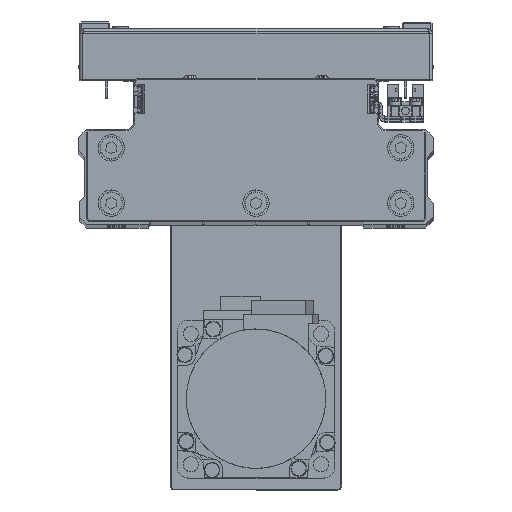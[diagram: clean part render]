
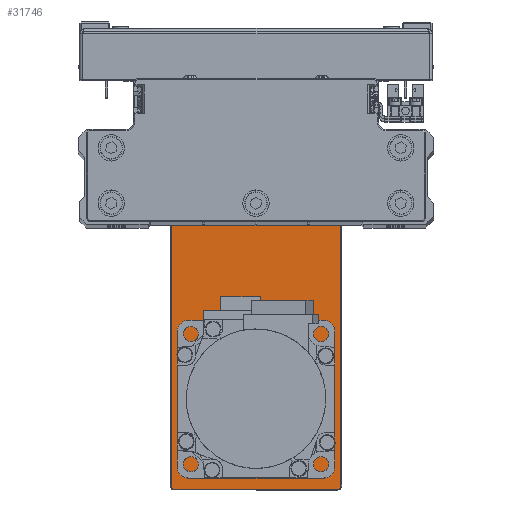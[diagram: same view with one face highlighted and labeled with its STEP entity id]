
A CAD part, top view. The second image highlights one B-rep face of the part: STEP entity #31746.
In plain terms, the highlighted planar face has unit normal (0, 0, 1) as drawn and (0, 1, 0) by its records, which use the part's own axes.
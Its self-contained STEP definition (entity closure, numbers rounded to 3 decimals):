
#621 = DIRECTION ( 'NONE',  ( 0., 0., -1. ) ) ;
#1058 = FACE_BOUND ( 'NONE', #24945, .T. ) ;
#1567 = DIRECTION ( 'NONE',  ( 0., 0., 1. ) ) ;
#1904 = DIRECTION ( 'NONE',  ( -1., 0., 0. ) ) ;
#1917 = DIRECTION ( 'NONE',  ( 0., 0., 1. ) ) ;
#2198 = EDGE_CURVE ( 'NONE', #16260, #32580, #7138, .T. ) ;
#2506 = DIRECTION ( 'NONE',  ( 0., 0., -1. ) ) ;
#2997 = VECTOR ( 'NONE', #1917, 1000. ) ;
#3269 = DIRECTION ( 'NONE',  ( 0., 1., 0. ) ) ;
#3300 = ORIENTED_EDGE ( 'NONE', *, *, #41774, .F. ) ;
#3473 = ORIENTED_EDGE ( 'NONE', *, *, #26073, .F. ) ;
#3651 = VERTEX_POINT ( 'NONE', #12794 ) ;
#3700 = LINE ( 'NONE', #17325, #35315 ) ;
#3705 = DIRECTION ( 'NONE',  ( 0., 0., -1. ) ) ;
#3742 = CIRCLE ( 'NONE', #28731, 1.2 ) ;
#3894 = VERTEX_POINT ( 'NONE', #28452 ) ;
#4904 = EDGE_CURVE ( 'NONE', #28765, #3894, #18880, .T. ) ;
#5372 = ORIENTED_EDGE ( 'NONE', *, *, #19065, .T. ) ;
#5559 = DIRECTION ( 'NONE',  ( 0., 0., 1. ) ) ;
#5629 = DIRECTION ( 'NONE',  ( 0., 0., -1. ) ) ;
#6058 = EDGE_CURVE ( 'NONE', #13177, #14620, #3742, .T. ) ;
#6297 = CARTESIAN_POINT ( 'NONE',  ( -50.5, 6., 0. ) ) ;
#6330 = CARTESIAN_POINT ( 'NONE',  ( -84.7, 6., 31. ) ) ;
#6502 = VECTOR ( 'NONE', #1904, 1000. ) ;
#6750 = DIRECTION ( 'NONE',  ( 0., 1., 0. ) ) ;
#7138 = CIRCLE ( 'NONE', #32129, 10.3 ) ;
#7143 = DIRECTION ( 'NONE',  ( 0., 0., -1. ) ) ;
#7390 = ORIENTED_EDGE ( 'NONE', *, *, #39424, .T. ) ;
#7571 = EDGE_LOOP ( 'NONE', ( #3473, #38682 ) ) ;
#7667 = EDGE_CURVE ( 'NONE', #8191, #26499, #42921, .T. ) ;
#7951 = DIRECTION ( 'NONE',  ( 0., 1., 0. ) ) ;
#7964 = DIRECTION ( 'NONE',  ( 0., 0., -1. ) ) ;
#8191 = VERTEX_POINT ( 'NONE', #24268 ) ;
#8596 = VERTEX_POINT ( 'NONE', #17065 ) ;
#8604 = LINE ( 'NONE', #32538, #2997 ) ;
#8832 = ORIENTED_EDGE ( 'NONE', *, *, #33096, .F. ) ;
#8853 = AXIS2_PLACEMENT_3D ( 'NONE', #19481, #33131, #2506 ) ;
#8948 = ORIENTED_EDGE ( 'NONE', *, *, #37110, .T. ) ;
#9487 = AXIS2_PLACEMENT_3D ( 'NONE', #20666, #34322, #3705 ) ;
#10263 = EDGE_CURVE ( 'NONE', #24751, #28188, #36641, .T. ) ;
#10364 = CIRCLE ( 'NONE', #16065, 10.3 ) ;
#11002 = DIRECTION ( 'NONE',  ( 0., 1., 0. ) ) ;
#11314 = PLANE ( 'NONE',  #34358 ) ;
#12244 = ORIENTED_EDGE ( 'NONE', *, *, #42526, .F. ) ;
#12256 = DIRECTION ( 'NONE',  ( 0., -1., 0. ) ) ;
#12441 = ORIENTED_EDGE ( 'NONE', *, *, #2198, .T. ) ;
#12794 = CARTESIAN_POINT ( 'NONE',  ( 75.992, 6., -10.076 ) ) ;
#13177 = VERTEX_POINT ( 'NONE', #39137 ) ;
#14027 = VECTOR ( 'NONE', #5629, 1000. ) ;
#14620 = VERTEX_POINT ( 'NONE', #29674 ) ;
#14671 = FACE_BOUND ( 'NONE', #28337, .T. ) ;
#14740 = CIRCLE ( 'NONE', #39772, 1.525 ) ;
#14870 = EDGE_LOOP ( 'NONE', ( #12244, #26708 ) ) ;
#15303 = VERTEX_POINT ( 'NONE', #33637 ) ;
#15852 = CIRCLE ( 'NONE', #40925, 1.525 ) ;
#16048 = CIRCLE ( 'NONE', #41110, 1.525 ) ;
#16065 = AXIS2_PLACEMENT_3D ( 'NONE', #42940, #12256, #25907 ) ;
#16260 = VERTEX_POINT ( 'NONE', #41573 ) ;
#16887 = DIRECTION ( 'NONE',  ( 0., 0., 1. ) ) ;
#17065 = CARTESIAN_POINT ( 'NONE',  ( -84.7, 6., -31. ) ) ;
#17325 = CARTESIAN_POINT ( 'NONE',  ( 0., 6., 32.2 ) ) ;
#17353 = AXIS2_PLACEMENT_3D ( 'NONE', #41680, #11002, #24626 ) ;
#17594 = CARTESIAN_POINT ( 'NONE',  ( 52.5, 6., 0. ) ) ;
#18225 = CARTESIAN_POINT ( 'NONE',  ( 84.7, 6., -31. ) ) ;
#18379 = CIRCLE ( 'NONE', #43408, 15. ) ;
#18528 = CARTESIAN_POINT ( 'NONE',  ( 75.992, 6., -8.551 ) ) ;
#18553 = CARTESIAN_POINT ( 'NONE',  ( 52.5, 6., 10.3 ) ) ;
#18880 = LINE ( 'NONE', #32524, #6502 ) ;
#19065 = EDGE_CURVE ( 'NONE', #32580, #16260, #10364, .T. ) ;
#19342 = CARTESIAN_POINT ( 'NONE',  ( -50.5, 6., 15. ) ) ;
#19481 = CARTESIAN_POINT ( 'NONE',  ( 83.5, 6., -31. ) ) ;
#19911 = DIRECTION ( 'NONE',  ( 0., 1., 0. ) ) ;
#19933 = AXIS2_PLACEMENT_3D ( 'NONE', #24115, #37776, #7143 ) ;
#20364 = DIRECTION ( 'NONE',  ( 0., 0., 1. ) ) ;
#20666 = CARTESIAN_POINT ( 'NONE',  ( -83.5, 6., -31. ) ) ;
#21570 = DIRECTION ( 'NONE',  ( 0., 0., -1. ) ) ;
#21867 = CARTESIAN_POINT ( 'NONE',  ( 61.051, 6., 25.017 ) ) ;
#22284 = EDGE_CURVE ( 'NONE', #3894, #8596, #28787, .T. ) ;
#22518 = CARTESIAN_POINT ( 'NONE',  ( 75.992, 6., -8.551 ) ) ;
#22599 = LINE ( 'NONE', #36267, #14027 ) ;
#23070 = VERTEX_POINT ( 'NONE', #6330 ) ;
#23587 = AXIS2_PLACEMENT_3D ( 'NONE', #6297, #19911, #33563 ) ;
#23638 = ORIENTED_EDGE ( 'NONE', *, *, #22284, .T. ) ;
#24115 = CARTESIAN_POINT ( 'NONE',  ( -83.5, 6., 31. ) ) ;
#24268 = CARTESIAN_POINT ( 'NONE',  ( -50.5, 6., -15. ) ) ;
#24626 = DIRECTION ( 'NONE',  ( 0., 0., 1. ) ) ;
#24751 = VERTEX_POINT ( 'NONE', #32892 ) ;
#24942 = CARTESIAN_POINT ( 'NONE',  ( 0., 6., 0. ) ) ;
#24945 = EDGE_LOOP ( 'NONE', ( #8832, #3300 ) ) ;
#25907 = DIRECTION ( 'NONE',  ( 0., 0., -1. ) ) ;
#26073 = EDGE_CURVE ( 'NONE', #28188, #24751, #16048, .T. ) ;
#26499 = VERTEX_POINT ( 'NONE', #19342 ) ;
#26708 = ORIENTED_EDGE ( 'NONE', *, *, #7667, .F. ) ;
#26983 = ORIENTED_EDGE ( 'NONE', *, *, #28040, .T. ) ;
#28028 = VERTEX_POINT ( 'NONE', #41179 ) ;
#28040 = EDGE_CURVE ( 'NONE', #23070, #28028, #39259, .T. ) ;
#28148 = CIRCLE ( 'NONE', #8853, 1.2 ) ;
#28188 = VERTEX_POINT ( 'NONE', #21867 ) ;
#28326 = FACE_OUTER_BOUND ( 'NONE', #39756, .T. ) ;
#28337 = EDGE_LOOP ( 'NONE', ( #5372, #12441 ) ) ;
#28452 = CARTESIAN_POINT ( 'NONE',  ( -83.5, 6., -32.2 ) ) ;
#28731 = AXIS2_PLACEMENT_3D ( 'NONE', #38601, #7951, #21570 ) ;
#28765 = VERTEX_POINT ( 'NONE', #33216 ) ;
#28787 = CIRCLE ( 'NONE', #9487, 1.2 ) ;
#29674 = CARTESIAN_POINT ( 'NONE',  ( 84.7, 6., 31. ) ) ;
#30984 = DIRECTION ( 'NONE',  ( 1., 0., 0. ) ) ;
#31245 = DIRECTION ( 'NONE',  ( 0., -1., 0. ) ) ;
#31675 = FACE_BOUND ( 'NONE', #7571, .T. ) ;
#31746 = ADVANCED_FACE ( 'NONE', ( #31675, #1058, #14671, #28326, #42007 ), #11314, .F. ) ;
#32129 = AXIS2_PLACEMENT_3D ( 'NONE', #17594, #31245, #621 ) ;
#32177 = DIRECTION ( 'NONE',  ( 0., 1., 0. ) ) ;
#32524 = CARTESIAN_POINT ( 'NONE',  ( 0., 6., -32.2 ) ) ;
#32538 = CARTESIAN_POINT ( 'NONE',  ( -84.7, 6., 0. ) ) ;
#32580 = VERTEX_POINT ( 'NONE', #18553 ) ;
#32892 = CARTESIAN_POINT ( 'NONE',  ( 61.051, 6., 21.967 ) ) ;
#33096 = EDGE_CURVE ( 'NONE', #15303, #3651, #15852, .T. ) ;
#33131 = DIRECTION ( 'NONE',  ( 0., 1., 0. ) ) ;
#33216 = CARTESIAN_POINT ( 'NONE',  ( 83.5, 6., -32.2 ) ) ;
#33563 = DIRECTION ( 'NONE',  ( 0., 0., 1. ) ) ;
#33637 = CARTESIAN_POINT ( 'NONE',  ( 75.992, 6., -7.026 ) ) ;
#33897 = CARTESIAN_POINT ( 'NONE',  ( -50.5, 6., 0. ) ) ;
#33972 = ORIENTED_EDGE ( 'NONE', *, *, #34855, .T. ) ;
#34322 = DIRECTION ( 'NONE',  ( 0., 1., 0. ) ) ;
#34358 = AXIS2_PLACEMENT_3D ( 'NONE', #24942, #38615, #7964 ) ;
#34855 = EDGE_CURVE ( 'NONE', #42633, #28765, #28148, .T. ) ;
#34986 = ORIENTED_EDGE ( 'NONE', *, *, #43246, .T. ) ;
#35315 = VECTOR ( 'NONE', #30984, 1000. ) ;
#36189 = DIRECTION ( 'NONE',  ( 0., 1., 0. ) ) ;
#36267 = CARTESIAN_POINT ( 'NONE',  ( 84.7, 6., 0. ) ) ;
#36641 = CIRCLE ( 'NONE', #17353, 1.525 ) ;
#36893 = ORIENTED_EDGE ( 'NONE', *, *, #6058, .T. ) ;
#37110 = EDGE_CURVE ( 'NONE', #8596, #23070, #8604, .T. ) ;
#37378 = CARTESIAN_POINT ( 'NONE',  ( 61.051, 6., 23.492 ) ) ;
#37776 = DIRECTION ( 'NONE',  ( 0., 1., 0. ) ) ;
#38601 = CARTESIAN_POINT ( 'NONE',  ( 83.5, 6., 31. ) ) ;
#38615 = DIRECTION ( 'NONE',  ( 0., -1., 0. ) ) ;
#38682 = ORIENTED_EDGE ( 'NONE', *, *, #10263, .F. ) ;
#39137 = CARTESIAN_POINT ( 'NONE',  ( 83.5, 6., 32.2 ) ) ;
#39259 = CIRCLE ( 'NONE', #19933, 1.2 ) ;
#39424 = EDGE_CURVE ( 'NONE', #28028, #13177, #3700, .T. ) ;
#39756 = EDGE_LOOP ( 'NONE', ( #33972, #43887, #23638, #8948, #26983, #7390, #36893, #34986 ) ) ;
#39772 = AXIS2_PLACEMENT_3D ( 'NONE', #18528, #32177, #1567 ) ;
#40925 = AXIS2_PLACEMENT_3D ( 'NONE', #22518, #36189, #5559 ) ;
#41110 = AXIS2_PLACEMENT_3D ( 'NONE', #37378, #6750, #20364 ) ;
#41179 = CARTESIAN_POINT ( 'NONE',  ( -83.5, 6., 32.2 ) ) ;
#41573 = CARTESIAN_POINT ( 'NONE',  ( 52.5, 6., -10.3 ) ) ;
#41680 = CARTESIAN_POINT ( 'NONE',  ( 61.051, 6., 23.492 ) ) ;
#41774 = EDGE_CURVE ( 'NONE', #3651, #15303, #14740, .T. ) ;
#42007 = FACE_BOUND ( 'NONE', #14870, .T. ) ;
#42526 = EDGE_CURVE ( 'NONE', #26499, #8191, #18379, .T. ) ;
#42633 = VERTEX_POINT ( 'NONE', #18225 ) ;
#42921 = CIRCLE ( 'NONE', #23587, 15. ) ;
#42940 = CARTESIAN_POINT ( 'NONE',  ( 52.5, 6., 0. ) ) ;
#43246 = EDGE_CURVE ( 'NONE', #14620, #42633, #22599, .T. ) ;
#43408 = AXIS2_PLACEMENT_3D ( 'NONE', #33897, #3269, #16887 ) ;
#43887 = ORIENTED_EDGE ( 'NONE', *, *, #4904, .T. ) ;
